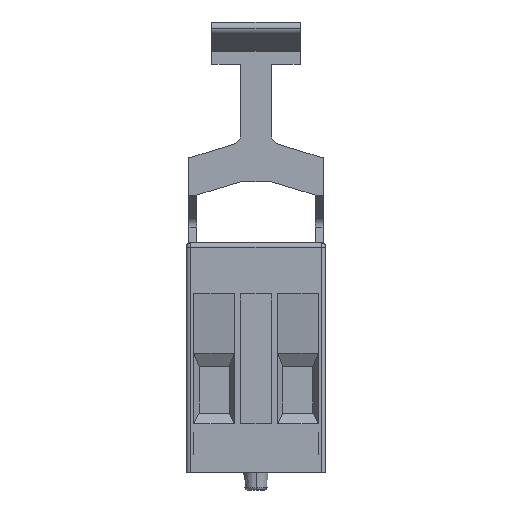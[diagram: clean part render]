
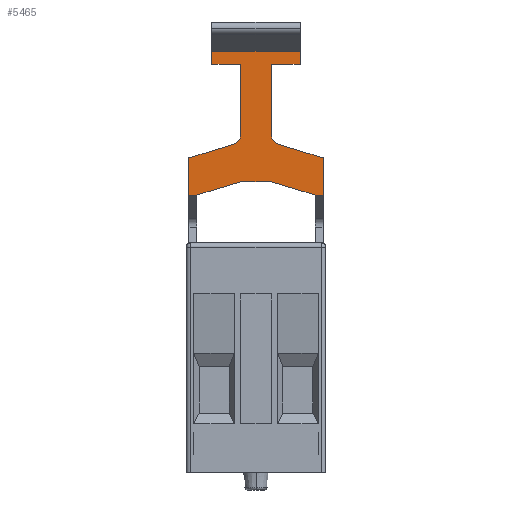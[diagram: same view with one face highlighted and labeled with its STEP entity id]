
A CAD part, front view. The second image highlights one B-rep face of the part: STEP entity #5465.
In plain terms, the highlighted planar face has unit normal (0, -1, 0).
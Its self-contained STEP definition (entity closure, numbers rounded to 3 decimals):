
#70 = CARTESIAN_POINT ( 'NONE',  ( 0.3, 22.159, 37.6 ) ) ;
#79 = VERTEX_POINT ( 'NONE', #25544 ) ;
#476 = LINE ( 'NONE', #28448, #33110 ) ;
#670 = DIRECTION ( 'NONE',  ( 1., 0., 0. ) ) ;
#1040 = VECTOR ( 'NONE', #22689, 1000. ) ;
#2459 = EDGE_CURVE ( 'NONE', #79, #30813, #5342, .T. ) ;
#2603 = DIRECTION ( 'NONE',  ( 0., 0., 1. ) ) ;
#2742 = DIRECTION ( 'NONE',  ( 0., 0., -1. ) ) ;
#2907 = VECTOR ( 'NONE', #2742, 1000. ) ;
#2955 = DIRECTION ( 'NONE',  ( -0.956, 0., 0.294 ) ) ;
#4187 = VECTOR ( 'NONE', #19297, 1000. ) ;
#4639 = EDGE_CURVE ( 'NONE', #18814, #6466, #40128, .T. ) ;
#4724 = DIRECTION ( 'NONE',  ( -1., 0., 0. ) ) ;
#4891 = LINE ( 'NONE', #30376, #21630 ) ;
#5271 = DIRECTION ( 'NONE',  ( 1., 0., 0. ) ) ;
#5285 = ORIENTED_EDGE ( 'NONE', *, *, #18742, .T. ) ;
#5292 = VECTOR ( 'NONE', #2603, 1000. ) ;
#5342 = LINE ( 'NONE', #21388, #5292 ) ;
#5394 = CARTESIAN_POINT ( 'NONE',  ( 15.5, 22.159, 37.6 ) ) ;
#5465 = ADVANCED_FACE ( 'NONE', ( #18622 ), #33670, .T. ) ;
#5479 = LINE ( 'NONE', #12153, #12723 ) ;
#6113 = DIRECTION ( 'NONE',  ( 0., 0., -1. ) ) ;
#6315 = DIRECTION ( 'NONE',  ( 0., 1., 0. ) ) ;
#6466 = VERTEX_POINT ( 'NONE', #8434 ) ;
#6724 = DIRECTION ( 'NONE',  ( 1., 0., 0. ) ) ;
#7386 = VERTEX_POINT ( 'NONE', #40048 ) ;
#8417 = VERTEX_POINT ( 'NONE', #25817 ) ;
#8434 = CARTESIAN_POINT ( 'NONE',  ( 2.9, 22.159, 48.2 ) ) ;
#8576 = CARTESIAN_POINT ( 'NONE',  ( 14.6, 22.159, 33.4 ) ) ;
#8703 = ORIENTED_EDGE ( 'NONE', *, *, #4639, .F. ) ;
#8870 = ORIENTED_EDGE ( 'NONE', *, *, #23103, .T. ) ;
#9423 = CARTESIAN_POINT ( 'NONE',  ( 0.3, 22.159, 33.4 ) ) ;
#9644 = LINE ( 'NONE', #19065, #14451 ) ;
#9814 = CARTESIAN_POINT ( 'NONE',  ( 0.3, 22.159, 33.4 ) ) ;
#9815 = CARTESIAN_POINT ( 'NONE',  ( 0.3, 22.159, 33.4 ) ) ;
#9830 = EDGE_LOOP ( 'NONE', ( #39748, #26044, #25191, #33772, #41195, #38495, #31153, #8703, #13090, #8870, #27783, #18842, #11353, #14060, #5285, #38908, #13381, #28373 ) ) ;
#10125 = VERTEX_POINT ( 'NONE', #40838 ) ;
#10196 = LINE ( 'NONE', #9815, #11576 ) ;
#10395 = LINE ( 'NONE', #21217, #39508 ) ;
#10552 = VERTEX_POINT ( 'NONE', #30302 ) ;
#11291 = EDGE_CURVE ( 'NONE', #18814, #23594, #5479, .T. ) ;
#11353 = ORIENTED_EDGE ( 'NONE', *, *, #32238, .T. ) ;
#11500 = CARTESIAN_POINT ( 'NONE',  ( 7.9, 22.159, 34.9 ) ) ;
#11536 = CARTESIAN_POINT ( 'NONE',  ( 12.9, 22.159, 48.2 ) ) ;
#11561 = EDGE_CURVE ( 'NONE', #37217, #33308, #29691, .T. ) ;
#11576 = VECTOR ( 'NONE', #18420, 1000. ) ;
#11624 = DIRECTION ( 'NONE',  ( 0., 0., -1. ) ) ;
#11625 = VECTOR ( 'NONE', #32120, 1000. ) ;
#12153 = CARTESIAN_POINT ( 'NONE',  ( 6.15, 22.159, 39.4 ) ) ;
#12504 = EDGE_CURVE ( 'NONE', #16955, #14013, #13415, .T. ) ;
#12723 = VECTOR ( 'NONE', #6113, 1000. ) ;
#13090 = ORIENTED_EDGE ( 'NONE', *, *, #11291, .T. ) ;
#13211 = CARTESIAN_POINT ( 'NONE',  ( 5.15, 22.159, 40.139 ) ) ;
#13381 = ORIENTED_EDGE ( 'NONE', *, *, #26028, .T. ) ;
#13415 = LINE ( 'NONE', #70, #4187 ) ;
#13515 = EDGE_CURVE ( 'NONE', #7386, #23773, #4891, .T. ) ;
#14013 = VERTEX_POINT ( 'NONE', #19238 ) ;
#14060 = ORIENTED_EDGE ( 'NONE', *, *, #11561, .T. ) ;
#14147 = LINE ( 'NONE', #27286, #40890 ) ;
#14227 = CARTESIAN_POINT ( 'NONE',  ( 9.65, 22.159, 34.9 ) ) ;
#14451 = VECTOR ( 'NONE', #31810, 1000. ) ;
#15418 = VECTOR ( 'NONE', #18350, 1000. ) ;
#15645 = AXIS2_PLACEMENT_3D ( 'NONE', #11500, #40531, #5271 ) ;
#15848 = CARTESIAN_POINT ( 'NONE',  ( 14.6, 22.159, 33.4 ) ) ;
#15926 = LINE ( 'NONE', #9423, #2907 ) ;
#16720 = VERTEX_POINT ( 'NONE', #9814 ) ;
#16955 = VERTEX_POINT ( 'NONE', #20914 ) ;
#18004 = EDGE_CURVE ( 'NONE', #21085, #7386, #32749, .T. ) ;
#18350 = DIRECTION ( 'NONE',  ( 0.957, 0., -0.29 ) ) ;
#18420 = DIRECTION ( 'NONE',  ( 1., 0., 0. ) ) ;
#18622 = FACE_OUTER_BOUND ( 'NONE', #9830, .T. ) ;
#18742 = EDGE_CURVE ( 'NONE', #33308, #36616, #23832, .T. ) ;
#18814 = VERTEX_POINT ( 'NONE', #31330 ) ;
#18842 = ORIENTED_EDGE ( 'NONE', *, *, #33144, .T. ) ;
#19065 = CARTESIAN_POINT ( 'NONE',  ( 15.5, 22.159, 33.4 ) ) ;
#19238 = CARTESIAN_POINT ( 'NONE',  ( 0.3, 22.159, 37.6 ) ) ;
#19297 = DIRECTION ( 'NONE',  ( -0.956, 0., -0.294 ) ) ;
#19381 = CARTESIAN_POINT ( 'NONE',  ( 12.9, 22.159, 48.2 ) ) ;
#20499 = EDGE_CURVE ( 'NONE', #10552, #10125, #22516, .T. ) ;
#20914 = CARTESIAN_POINT ( 'NONE',  ( 5.444, 22.159, 39.183 ) ) ;
#21085 = VERTEX_POINT ( 'NONE', #32782 ) ;
#21217 = CARTESIAN_POINT ( 'NONE',  ( 12.9, 22.159, 48.2 ) ) ;
#21388 = CARTESIAN_POINT ( 'NONE',  ( 15.5, 22.159, 33.4 ) ) ;
#21396 = CARTESIAN_POINT ( 'NONE',  ( 1.2, 22.159, 33.4 ) ) ;
#21630 = VECTOR ( 'NONE', #33896, 1000. ) ;
#21656 = CARTESIAN_POINT ( 'NONE',  ( 6.15, 22.159, 40.139 ) ) ;
#22516 = LINE ( 'NONE', #19381, #11625 ) ;
#22689 = DIRECTION ( 'NONE',  ( -1., 0., 0. ) ) ;
#23103 = EDGE_CURVE ( 'NONE', #23594, #16955, #30946, .T. ) ;
#23193 = VECTOR ( 'NONE', #24289, 1000. ) ;
#23594 = VERTEX_POINT ( 'NONE', #21656 ) ;
#23629 = CARTESIAN_POINT ( 'NONE',  ( 6.15, 22.159, 34.9 ) ) ;
#23773 = VERTEX_POINT ( 'NONE', #38750 ) ;
#23832 = LINE ( 'NONE', #23629, #36785 ) ;
#24289 = DIRECTION ( 'NONE',  ( -1., 0., 0. ) ) ;
#25191 = ORIENTED_EDGE ( 'NONE', *, *, #13515, .T. ) ;
#25544 = CARTESIAN_POINT ( 'NONE',  ( 15.5, 22.159, 33.4 ) ) ;
#25817 = CARTESIAN_POINT ( 'NONE',  ( 2.9, 22.159, 49.7 ) ) ;
#26028 = EDGE_CURVE ( 'NONE', #35814, #79, #9644, .T. ) ;
#26044 = ORIENTED_EDGE ( 'NONE', *, *, #18004, .T. ) ;
#27286 = CARTESIAN_POINT ( 'NONE',  ( 2.9, 22.159, 48.2 ) ) ;
#27783 = ORIENTED_EDGE ( 'NONE', *, *, #12504, .T. ) ;
#28313 = AXIS2_PLACEMENT_3D ( 'NONE', #13211, #31812, #670 ) ;
#28373 = ORIENTED_EDGE ( 'NONE', *, *, #2459, .T. ) ;
#28448 = CARTESIAN_POINT ( 'NONE',  ( 15.5, 22.159, 37.6 ) ) ;
#29691 = LINE ( 'NONE', #39459, #30797 ) ;
#30302 = CARTESIAN_POINT ( 'NONE',  ( 12.9, 22.159, 49.7 ) ) ;
#30376 = CARTESIAN_POINT ( 'NONE',  ( 9.65, 22.159, 39.4 ) ) ;
#30797 = VECTOR ( 'NONE', #33233, 1000. ) ;
#30813 = VERTEX_POINT ( 'NONE', #5394 ) ;
#30946 = CIRCLE ( 'NONE', #28313, 1. ) ;
#30959 = EDGE_CURVE ( 'NONE', #36616, #35814, #31726, .T. ) ;
#31153 = ORIENTED_EDGE ( 'NONE', *, *, #33551, .T. ) ;
#31330 = CARTESIAN_POINT ( 'NONE',  ( 6.15, 22.159, 48.2 ) ) ;
#31692 = CARTESIAN_POINT ( 'NONE',  ( 12.9, 22.159, 49.7 ) ) ;
#31726 = LINE ( 'NONE', #15848, #15418 ) ;
#31810 = DIRECTION ( 'NONE',  ( 1., 0., 0. ) ) ;
#31812 = DIRECTION ( 'NONE',  ( 0., 1., 0. ) ) ;
#32120 = DIRECTION ( 'NONE',  ( 0., 0., -1. ) ) ;
#32238 = EDGE_CURVE ( 'NONE', #16720, #37217, #10196, .T. ) ;
#32749 = CIRCLE ( 'NONE', #34056, 1. ) ;
#32782 = CARTESIAN_POINT ( 'NONE',  ( 10.356, 22.159, 39.183 ) ) ;
#33110 = VECTOR ( 'NONE', #2955, 1000. ) ;
#33144 = EDGE_CURVE ( 'NONE', #14013, #16720, #15926, .T. ) ;
#33233 = DIRECTION ( 'NONE',  ( 0.957, 0., 0.29 ) ) ;
#33308 = VERTEX_POINT ( 'NONE', #34426 ) ;
#33551 = EDGE_CURVE ( 'NONE', #8417, #6466, #14147, .T. ) ;
#33670 = PLANE ( 'NONE',  #15645 ) ;
#33772 = ORIENTED_EDGE ( 'NONE', *, *, #37103, .F. ) ;
#33896 = DIRECTION ( 'NONE',  ( 0., 0., 1. ) ) ;
#34056 = AXIS2_PLACEMENT_3D ( 'NONE', #34877, #6315, #6724 ) ;
#34426 = CARTESIAN_POINT ( 'NONE',  ( 6.15, 22.159, 34.9 ) ) ;
#34877 = CARTESIAN_POINT ( 'NONE',  ( 10.65, 22.159, 40.139 ) ) ;
#35814 = VERTEX_POINT ( 'NONE', #8576 ) ;
#35893 = EDGE_CURVE ( 'NONE', #30813, #21085, #476, .T. ) ;
#36616 = VERTEX_POINT ( 'NONE', #14227 ) ;
#36785 = VECTOR ( 'NONE', #39676, 1000. ) ;
#37103 = EDGE_CURVE ( 'NONE', #10125, #23773, #10395, .T. ) ;
#37217 = VERTEX_POINT ( 'NONE', #21396 ) ;
#38495 = ORIENTED_EDGE ( 'NONE', *, *, #40413, .T. ) ;
#38554 = LINE ( 'NONE', #31692, #1040 ) ;
#38750 = CARTESIAN_POINT ( 'NONE',  ( 9.65, 22.159, 48.2 ) ) ;
#38908 = ORIENTED_EDGE ( 'NONE', *, *, #30959, .T. ) ;
#39459 = CARTESIAN_POINT ( 'NONE',  ( 1.2, 22.159, 33.4 ) ) ;
#39508 = VECTOR ( 'NONE', #4724, 1000. ) ;
#39676 = DIRECTION ( 'NONE',  ( 1., 0., 0. ) ) ;
#39748 = ORIENTED_EDGE ( 'NONE', *, *, #35893, .T. ) ;
#40048 = CARTESIAN_POINT ( 'NONE',  ( 9.65, 22.159, 40.139 ) ) ;
#40128 = LINE ( 'NONE', #11536, #23193 ) ;
#40413 = EDGE_CURVE ( 'NONE', #10552, #8417, #38554, .T. ) ;
#40531 = DIRECTION ( 'NONE',  ( 0., -1., 0. ) ) ;
#40838 = CARTESIAN_POINT ( 'NONE',  ( 12.9, 22.159, 48.2 ) ) ;
#40890 = VECTOR ( 'NONE', #11624, 1000. ) ;
#41195 = ORIENTED_EDGE ( 'NONE', *, *, #20499, .F. ) ;
